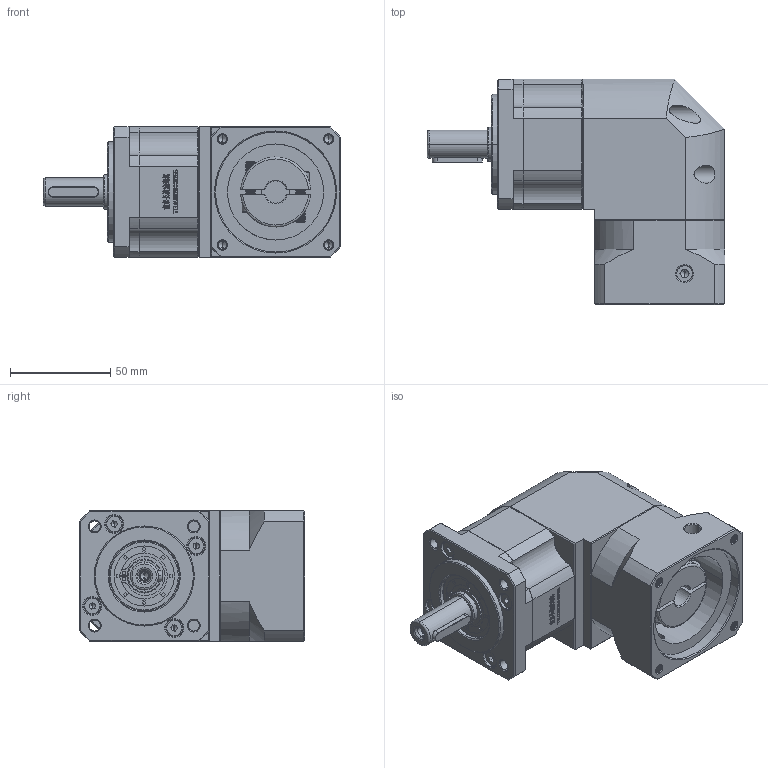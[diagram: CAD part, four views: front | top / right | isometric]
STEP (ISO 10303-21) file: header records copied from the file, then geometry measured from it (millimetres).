
FILE_DESCRIPTION (( 'STEP AP214' ), '1' );
FILE_NAME ('ZBR60-D14-L1-11-60-75-M5.STEP', '2022-04-19T08:48:09', ( '' ), ( 'Microsoft' ), 'SwSTEP 2.0', 'SolidWorks 2016', '' );
FILE_SCHEMA (( 'AUTOMOTIVE_DESIGN' ));
Length unit declared in the file: millimetre
Products named in the file (1): ZBR60-D14-L1-11-60-75-M5
Bounding box: 148.5 x 112.7 x 65 mm (x, y, z)
Volume: 541042 mm3; surface area: 79104.9 mm2
Topology: 5 solids, 5 shells, 2843 faces, 7685 edges, 4978 vertices
Faces by surface type: plane 1472, bspline 591, cylinder 432, cone 326, torus 22
Entity records: 155293 total; most frequent: CARTESIAN_POINT 56983, ORIENTED_EDGE 15310, DIRECTION 11621, EDGE_CURVE 7655, VECTOR 5057, LINE 5057, VERTEX_POINT 4978, AXIS2_PLACEMENT_3D 3282
